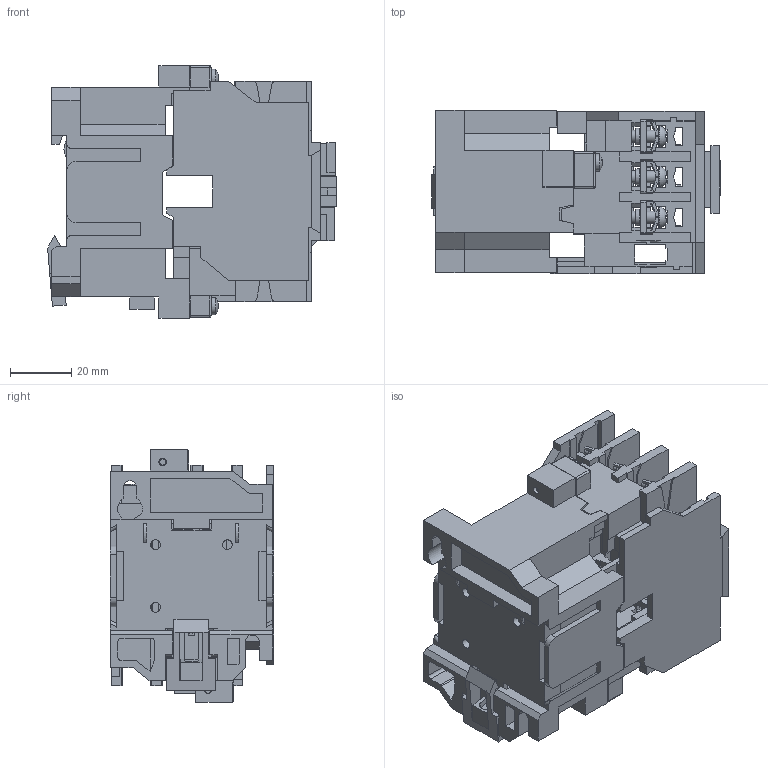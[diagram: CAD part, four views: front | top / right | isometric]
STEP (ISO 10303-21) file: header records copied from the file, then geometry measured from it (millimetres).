
FILE_DESCRIPTION(('STEP AP242'), '1');
FILE_NAME('Êîíòàêòîð ÏÌ12-025 (çàêàç÷èêàì)', '2022-06-17T05:45:50', (''), (''), 'ASCON STEP Converter 1.6', 'ASCON Math Kernel', '');
FILE_SCHEMA(('AP242_MANAGED_MODEL_BASED_3D_ENGINEERING_MIM_LF { 1 0 10303 442 1 1 4 }'));
Length unit declared in the file: millimetre
Bounding box: 94.2 x 53.37 x 82.5 mm (x, y, z)
Volume: 97299.1 mm3; surface area: 69838 mm2
Topology: 6 solids, 6 shells, 3003 faces, 8377 edges, 5376 vertices
Faces by surface type: plane 2275, cylinder 520, torus 110, cone 54, bspline 32, sphere 12
Full cylindrical faces by diameter (mm): 2.4 x2, 2.9 x2, 3 x1, 3.2 x3, 3.3 x3, 3.8 x2, 4 x12, 4.2 x6, 5.3 x6, 5.6 x2, 7 x6
Entity records: 126585 total; most frequent: CARTESIAN_POINT 25240, ORIENTED_EDGE 16598, DIRECTION 15499, EDGE_CURVE 8299, LINE 6257, VECTOR 6257, VERTEX_POINT 5375, AXIS2_PLACEMENT_3D 4621
